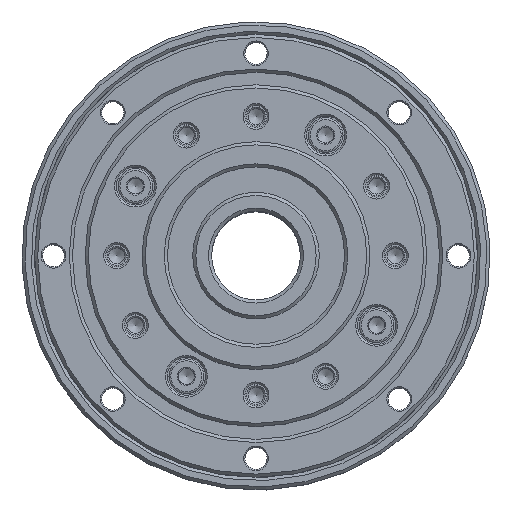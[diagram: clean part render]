
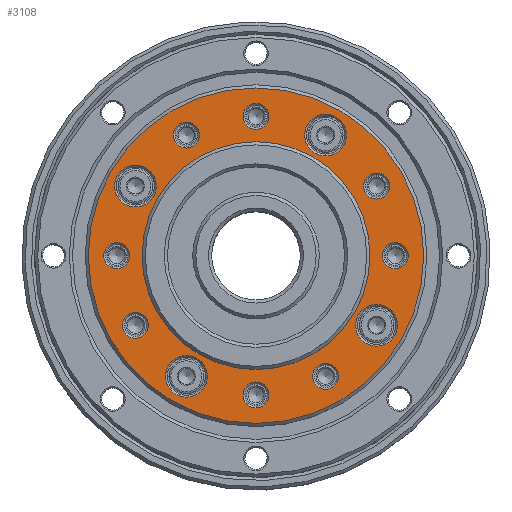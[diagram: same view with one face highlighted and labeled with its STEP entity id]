
A CAD part, top view. The second image highlights one B-rep face of the part: STEP entity #3108.
In plain terms, the highlighted planar face has unit normal (0, 0, 1).
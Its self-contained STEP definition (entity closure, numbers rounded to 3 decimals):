
#3108=ADVANCED_FACE('',(#4283,#4284,#4285,#4286,#4287,#4288,#4289,#4290,
#4291,#4292,#4293,#4294,#4295,#4296),#3451,.T.);
#3451=PLANE('',#12432);
#4283=FACE_BOUND('',#5577,.T.);
#4284=FACE_BOUND('',#5578,.T.);
#4285=FACE_BOUND('',#5579,.T.);
#4286=FACE_BOUND('',#5580,.T.);
#4287=FACE_BOUND('',#5581,.T.);
#4288=FACE_BOUND('',#5582,.T.);
#4289=FACE_BOUND('',#5583,.T.);
#4290=FACE_BOUND('',#5584,.T.);
#4291=FACE_BOUND('',#5585,.T.);
#4292=FACE_BOUND('',#5586,.T.);
#4293=FACE_BOUND('',#5587,.T.);
#4294=FACE_BOUND('',#5588,.T.);
#4295=FACE_BOUND('',#5589,.T.);
#4296=FACE_BOUND('',#5590,.T.);
#5577=EDGE_LOOP('',(#7737));
#5578=EDGE_LOOP('',(#7738));
#5579=EDGE_LOOP('',(#7739));
#5580=EDGE_LOOP('',(#7740));
#5581=EDGE_LOOP('',(#7741));
#5582=EDGE_LOOP('',(#7742));
#5583=EDGE_LOOP('',(#7743));
#5584=EDGE_LOOP('',(#7744));
#5585=EDGE_LOOP('',(#7745));
#5586=EDGE_LOOP('',(#7746));
#5587=EDGE_LOOP('',(#7747));
#5588=EDGE_LOOP('',(#7748));
#5589=EDGE_LOOP('',(#7749));
#5590=EDGE_LOOP('',(#7750));
#7737=ORIENTED_EDGE('',*,*,#10223,.T.);
#7738=ORIENTED_EDGE('',*,*,#10224,.T.);
#7739=ORIENTED_EDGE('',*,*,#10225,.T.);
#7740=ORIENTED_EDGE('',*,*,#10226,.T.);
#7741=ORIENTED_EDGE('',*,*,#10227,.T.);
#7742=ORIENTED_EDGE('',*,*,#10228,.T.);
#7743=ORIENTED_EDGE('',*,*,#10229,.T.);
#7744=ORIENTED_EDGE('',*,*,#10230,.T.);
#7745=ORIENTED_EDGE('',*,*,#10231,.T.);
#7746=ORIENTED_EDGE('',*,*,#10232,.T.);
#7747=ORIENTED_EDGE('',*,*,#10233,.T.);
#7748=ORIENTED_EDGE('',*,*,#10234,.T.);
#7749=ORIENTED_EDGE('',*,*,#10235,.T.);
#7750=ORIENTED_EDGE('',*,*,#10236,.F.);
#9102=VERTEX_POINT('',#33213);
#9103=VERTEX_POINT('',#33215);
#9104=VERTEX_POINT('',#33217);
#9105=VERTEX_POINT('',#33219);
#9106=VERTEX_POINT('',#33221);
#9107=VERTEX_POINT('',#33223);
#9108=VERTEX_POINT('',#33225);
#9109=VERTEX_POINT('',#33227);
#9110=VERTEX_POINT('',#33229);
#9111=VERTEX_POINT('',#33231);
#9112=VERTEX_POINT('',#33233);
#9113=VERTEX_POINT('',#33235);
#9114=VERTEX_POINT('',#33237);
#9115=VERTEX_POINT('',#33239);
#10223=EDGE_CURVE('',#9102,#9102,#11112,.T.);
#10224=EDGE_CURVE('',#9103,#9103,#11113,.T.);
#10225=EDGE_CURVE('',#9104,#9104,#11114,.T.);
#10226=EDGE_CURVE('',#9105,#9105,#11115,.T.);
#10227=EDGE_CURVE('',#9106,#9106,#11116,.T.);
#10228=EDGE_CURVE('',#9107,#9107,#11117,.T.);
#10229=EDGE_CURVE('',#9108,#9108,#11118,.T.);
#10230=EDGE_CURVE('',#9109,#9109,#11119,.T.);
#10231=EDGE_CURVE('',#9110,#9110,#11120,.T.);
#10232=EDGE_CURVE('',#9111,#9111,#11121,.T.);
#10233=EDGE_CURVE('',#9112,#9112,#11122,.T.);
#10234=EDGE_CURVE('',#9113,#9113,#11123,.T.);
#10235=EDGE_CURVE('',#9114,#9114,#11124,.T.);
#10236=EDGE_CURVE('',#9115,#9115,#11125,.T.);
#11112=CIRCLE('',#12418,3.3);
#11113=CIRCLE('',#12419,3.3);
#11114=CIRCLE('',#12420,3.3);
#11115=CIRCLE('',#12421,3.3);
#11116=CIRCLE('',#12422,2.05);
#11117=CIRCLE('',#12423,2.05);
#11118=CIRCLE('',#12424,2.05);
#11119=CIRCLE('',#12425,2.05);
#11120=CIRCLE('',#12426,2.05);
#11121=CIRCLE('',#12427,2.05);
#11122=CIRCLE('',#12428,2.05);
#11123=CIRCLE('',#12429,2.05);
#11124=CIRCLE('',#12430,26.5);
#11125=CIRCLE('',#12431,18.);
#12418=AXIS2_PLACEMENT_3D('',#33212,#15183,#15184);
#12419=AXIS2_PLACEMENT_3D('',#33214,#15185,#15186);
#12420=AXIS2_PLACEMENT_3D('',#33216,#15187,#15188);
#12421=AXIS2_PLACEMENT_3D('',#33218,#15189,#15190);
#12422=AXIS2_PLACEMENT_3D('',#33220,#15191,#15192);
#12423=AXIS2_PLACEMENT_3D('',#33222,#15193,#15194);
#12424=AXIS2_PLACEMENT_3D('',#33224,#15195,#15196);
#12425=AXIS2_PLACEMENT_3D('',#33226,#15197,#15198);
#12426=AXIS2_PLACEMENT_3D('',#33228,#15199,#15200);
#12427=AXIS2_PLACEMENT_3D('',#33230,#15201,#15202);
#12428=AXIS2_PLACEMENT_3D('',#33232,#15203,#15204);
#12429=AXIS2_PLACEMENT_3D('',#33234,#15205,#15206);
#12430=AXIS2_PLACEMENT_3D('',#33236,#15207,#15208);
#12431=AXIS2_PLACEMENT_3D('',#33238,#15209,#15210);
#12432=AXIS2_PLACEMENT_3D('',#33240,#15211,#15212);
#15183=DIRECTION('',(0.,0.,-1.));
#15184=DIRECTION('',(1.,0.,0.));
#15185=DIRECTION('',(0.,0.,-1.));
#15186=DIRECTION('',(1.,0.,0.));
#15187=DIRECTION('',(0.,0.,-1.));
#15188=DIRECTION('',(1.,0.,0.));
#15189=DIRECTION('',(0.,0.,-1.));
#15190=DIRECTION('',(1.,0.,0.));
#15191=DIRECTION('',(0.,0.,-1.));
#15192=DIRECTION('',(1.,0.,0.));
#15193=DIRECTION('',(0.,0.,-1.));
#15194=DIRECTION('',(1.,0.,0.));
#15195=DIRECTION('',(0.,0.,-1.));
#15196=DIRECTION('',(1.,0.,0.));
#15197=DIRECTION('',(0.,0.,-1.));
#15198=DIRECTION('',(1.,0.,0.));
#15199=DIRECTION('',(0.,0.,-1.));
#15200=DIRECTION('',(1.,0.,0.));
#15201=DIRECTION('',(0.,0.,-1.));
#15202=DIRECTION('',(1.,0.,0.));
#15203=DIRECTION('',(0.,0.,-1.));
#15204=DIRECTION('',(1.,0.,0.));
#15205=DIRECTION('',(0.,0.,-1.));
#15206=DIRECTION('',(1.,0.,0.));
#15207=DIRECTION('',(0.,0.,1.));
#15208=DIRECTION('',(1.,0.,0.));
#15209=DIRECTION('',(0.,0.,1.));
#15210=DIRECTION('',(1.,0.,0.));
#15211=DIRECTION('',(0.,0.,1.));
#15212=DIRECTION('',(1.,0.,0.));
#33212=CARTESIAN_POINT('',(22.,0.,8.));
#33213=CARTESIAN_POINT('',(25.3,0.,8.));
#33214=CARTESIAN_POINT('',(0.,-22.,8.));
#33215=CARTESIAN_POINT('',(3.3,-22.,8.));
#33216=CARTESIAN_POINT('',(-22.,0.,8.));
#33217=CARTESIAN_POINT('',(-18.7,0.,8.));
#33218=CARTESIAN_POINT('',(0.,22.,8.));
#33219=CARTESIAN_POINT('',(3.3,22.,8.));
#33220=CARTESIAN_POINT('',(-11.,19.053,8.));
#33221=CARTESIAN_POINT('',(-8.95,19.053,8.));
#33222=CARTESIAN_POINT('',(11.,19.053,8.));
#33223=CARTESIAN_POINT('',(13.05,19.053,8.));
#33224=CARTESIAN_POINT('',(19.053,11.,8.));
#33225=CARTESIAN_POINT('',(21.103,11.,8.));
#33226=CARTESIAN_POINT('',(19.053,-11.,8.));
#33227=CARTESIAN_POINT('',(21.103,-11.,8.));
#33228=CARTESIAN_POINT('',(11.,-19.053,8.));
#33229=CARTESIAN_POINT('',(13.05,-19.053,8.));
#33230=CARTESIAN_POINT('',(-11.,-19.053,8.));
#33231=CARTESIAN_POINT('',(-8.95,-19.053,8.));
#33232=CARTESIAN_POINT('',(-19.053,-11.,8.));
#33233=CARTESIAN_POINT('',(-17.003,-11.,8.));
#33234=CARTESIAN_POINT('',(-19.053,11.,8.));
#33235=CARTESIAN_POINT('',(-17.003,11.,8.));
#33236=CARTESIAN_POINT('',(0.,0.,8.));
#33237=CARTESIAN_POINT('',(26.5,0.,8.));
#33238=CARTESIAN_POINT('',(0.,0.,8.));
#33239=CARTESIAN_POINT('',(18.,0.,8.));
#33240=CARTESIAN_POINT('',(11.,0.,8.));
